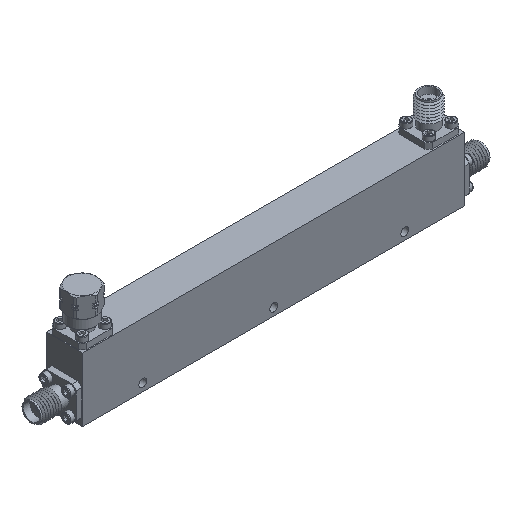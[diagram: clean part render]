
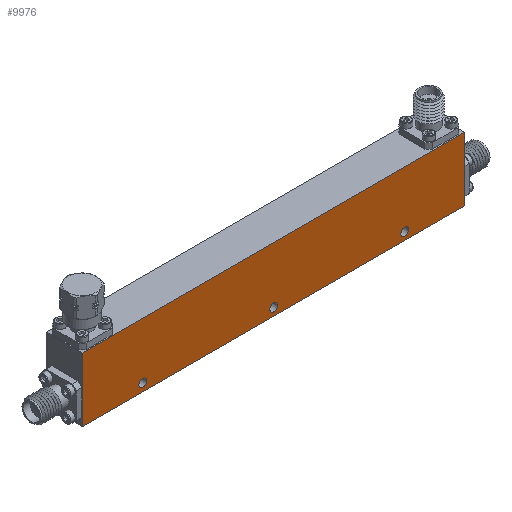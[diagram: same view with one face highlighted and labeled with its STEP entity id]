
A CAD part, isometric view. The second image highlights one B-rep face of the part: STEP entity #9976.
In plain terms, the highlighted planar face has unit normal (0, -1, 0).
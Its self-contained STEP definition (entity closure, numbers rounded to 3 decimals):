
#524=LINE('',#13366,#864);
#532=LINE('',#13406,#872);
#533=LINE('',#13408,#873);
#534=LINE('',#13410,#874);
#864=VECTOR('',#11344,1000.);
#872=VECTOR('',#11380,1000.);
#873=VECTOR('',#11381,1000.);
#874=VECTOR('',#11382,1000.);
#1226=ORIENTED_EDGE('',*,*,#2970,.T.);
#1227=ORIENTED_EDGE('',*,*,#2952,.T.);
#1228=ORIENTED_EDGE('',*,*,#2971,.T.);
#1229=ORIENTED_EDGE('',*,*,#2972,.T.);
#1230=ORIENTED_EDGE('',*,*,#2969,.F.);
#1231=ORIENTED_EDGE('',*,*,#2967,.F.);
#1232=ORIENTED_EDGE('',*,*,#2965,.F.);
#2952=EDGE_CURVE('',#3824,#3825,#524,.T.);
#2965=EDGE_CURVE('',#3837,#3837,#4510,.T.);
#2967=EDGE_CURVE('',#3839,#3839,#4512,.T.);
#2969=EDGE_CURVE('',#3841,#3841,#4514,.T.);
#2970=EDGE_CURVE('',#3842,#3824,#532,.T.);
#2971=EDGE_CURVE('',#3825,#3843,#533,.T.);
#2972=EDGE_CURVE('',#3843,#3842,#534,.T.);
#3824=VERTEX_POINT('',#13367);
#3825=VERTEX_POINT('',#13368);
#3837=VERTEX_POINT('',#13394);
#3839=VERTEX_POINT('',#13399);
#3841=VERTEX_POINT('',#13404);
#3842=VERTEX_POINT('',#13407);
#3843=VERTEX_POINT('',#13409);
#4510=CIRCLE('',#10500,1.1);
#4512=CIRCLE('',#10503,1.1);
#4514=CIRCLE('',#10506,1.1);
#4866=EDGE_LOOP('',(#1226,#1227,#1228,#1229));
#4867=EDGE_LOOP('',(#1230));
#4868=EDGE_LOOP('',(#1231));
#4869=EDGE_LOOP('',(#1232));
#5613=FACE_BOUND('',#4866,.T.);
#5614=FACE_BOUND('',#4867,.T.);
#5615=FACE_BOUND('',#4868,.T.);
#5616=FACE_BOUND('',#4869,.T.);
#6376=PLANE('',#10507);
#9976=ADVANCED_FACE('',(#5613,#5614,#5615,#5616),#6376,.T.);
#10500=AXIS2_PLACEMENT_3D('',#13393,#11364,#11365);
#10503=AXIS2_PLACEMENT_3D('',#13398,#11370,#11371);
#10506=AXIS2_PLACEMENT_3D('',#13403,#11376,#11377);
#10507=AXIS2_PLACEMENT_3D('',#13405,#11378,#11379);
#11344=DIRECTION('',(-1.,0.,0.));
#11364=DIRECTION('',(0.,-1.,0.));
#11365=DIRECTION('',(0.,0.,-1.));
#11370=DIRECTION('',(0.,-1.,0.));
#11371=DIRECTION('',(0.,0.,-1.));
#11376=DIRECTION('',(0.,-1.,0.));
#11377=DIRECTION('',(0.,0.,-1.));
#11378=DIRECTION('',(0.,-1.,0.));
#11379=DIRECTION('',(0.,0.,-1.));
#11380=DIRECTION('',(0.,0.,1.));
#11381=DIRECTION('',(0.,0.,-1.));
#11382=DIRECTION('',(1.,0.,0.));
#13366=CARTESIAN_POINT('',(53.98,1.332,8.349));
#13367=CARTESIAN_POINT('',(53.98,1.332,8.349));
#13368=CARTESIAN_POINT('',(-54.02,1.332,8.349));
#13393=CARTESIAN_POINT('',(36.98,1.332,-7.451));
#13394=CARTESIAN_POINT('',(36.98,1.332,-8.551));
#13398=CARTESIAN_POINT('',(-0.02,1.332,-7.451));
#13399=CARTESIAN_POINT('',(-0.02,1.332,-8.551));
#13403=CARTESIAN_POINT('',(-37.02,1.332,-7.451));
#13404=CARTESIAN_POINT('',(-37.02,1.332,-8.551));
#13405=CARTESIAN_POINT('',(-0.02,1.332,-0.651));
#13406=CARTESIAN_POINT('',(53.98,1.332,-9.651));
#13407=CARTESIAN_POINT('',(53.98,1.332,-9.651));
#13408=CARTESIAN_POINT('',(-54.02,1.332,8.349));
#13409=CARTESIAN_POINT('',(-54.02,1.332,-9.651));
#13410=CARTESIAN_POINT('',(-54.02,1.332,-9.651));
